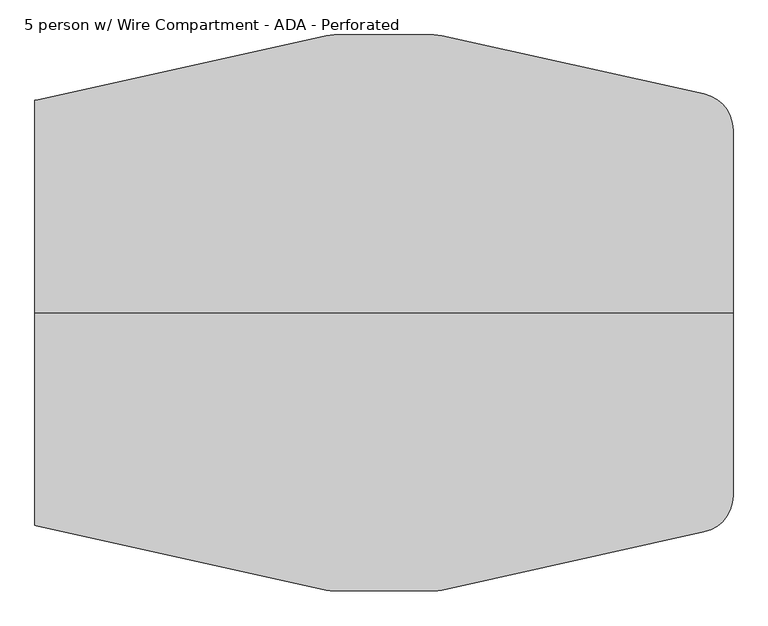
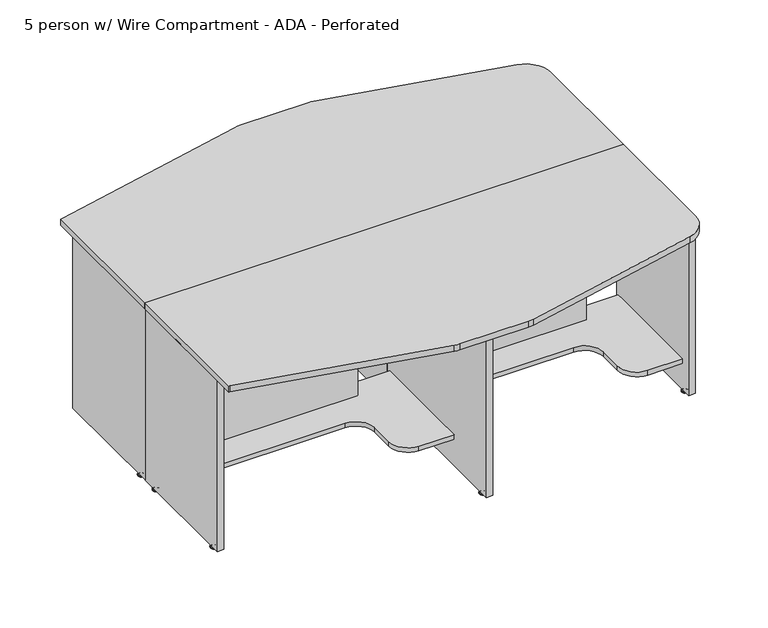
"""IFC4 building model written with IfcOpenShell, lengths in millimetres: furniture geometry, Nova Solutions - Collaboration Table - Boat_4-6 person : 5 person w/ Wire Compartment - ADA - Perforated."""

from ifc_helpers import new_model, si_unit, point, frame, frame_2d, origin, place, context, project, spatial, polyline, circle_curve, ellipse_curve, trimmed, segment, composite_curve, outline, extrude, source, transform, mapped, element, save
from ifc_brep_helpers import plane_surface, cylinder_surface, revolved_surface, advanced_brep


def furniture_5_person_w_wire_compartment_ada_perforated_266a7b52(model_context):
    return source(origin(), model_context, "Body", "SolidModel", [
        advanced_brep(
        [(-971.6776506, 50.4140625, 11.1125), (-958.3223494, 50.4140625, 11.1125), (-965.0, 50.4140625, 11.1125), (-971.6776506, 50.4140625, 9.525), (-958.3223494, 50.4140625, 9.525), (-976.8855135, 50.4140625, 4.7748687), (-953.1144865, 50.4140625, 4.7748687), (-977.7466506, 50.4140625, 3.989419), (-952.2533494, 50.4140625, 3.989419), (-977.7466506, 50.4140625, 3.175), (-952.2533494, 50.4140625, 3.175), (-976.8959119, 50.4140625, 0.0), (-953.1040881, 50.4140625, 0.0), (-965.0, 50.4140625, 0.0)],
        [
            (0, 1, circle_curve(frame((-965.0, 50.4140625, 11.1125), z_axis=(0.0, 0.0, 1.0), x_axis=(1.0, 0.0, 0.0)), 6.6776506)),
            (1, 2),
            (2, 0),
            (1, 0, circle_curve(frame((-965.0, 50.4140625, 11.1125), z_axis=(0.0, 0.0, 1.0), x_axis=(1.0, 0.0, 0.0)), 6.6776506)),
            (3, 4, circle_curve(frame((-965.0, 50.4140625, 9.525), z_axis=(0.0, 0.0, 1.0), x_axis=(1.0, 0.0, 0.0)), 6.6776506)),
            (4, 1),
            (0, 3),
            (4, 3, circle_curve(frame((-965.0, 50.4140625, 9.525), z_axis=(0.0, 0.0, 1.0), x_axis=(1.0, 0.0, 0.0)), 6.6776506)),
            (5, 6, circle_curve(frame((-965.0, 50.4140625, 4.7748687), z_axis=(0.0, 0.0, 1.0), x_axis=(1.0, 0.0, 0.0)), 11.8855135)),
            (6, 4, circle_curve(frame((-952.0679373, 50.4140625, 11.1521822), z_axis=(0.0, 1.0, 0.0), x_axis=(-1.0, 0.0, 0.0)), 6.462615)),
            (3, 5, circle_curve(frame((-977.9320627, 50.4140625, 11.1521822), z_axis=(0.0, 1.0, 0.0), x_axis=(1.0, 0.0, 0.0)), 6.462615)),
            (6, 5, circle_curve(frame((-965.0, 50.4140625, 4.7748687), z_axis=(0.0, 0.0, 1.0), x_axis=(1.0, 0.0, 0.0)), 11.8855135)),
            (7, 8, circle_curve(frame((-965.0, 50.4140625, 3.989419), z_axis=(0.0, 0.0, 1.0), x_axis=(1.0, 0.0, 0.0)), 12.7466506)),
            (8, 6, circle_curve(frame((-953.2875368, 50.4140625, 3.7203591), z_axis=(0.0, -1.0, 0.0), x_axis=(-1.0, 0.0, 0.0)), 1.0686145)),
            (5, 7, circle_curve(frame((-976.7124632, 50.4140625, 3.7203591), z_axis=(0.0, -1.0, 0.0), x_axis=(1.0, 0.0, 0.0)), 1.0686145)),
            (8, 7, circle_curve(frame((-965.0, 50.4140625, 3.989419), z_axis=(0.0, 0.0, 1.0), x_axis=(1.0, 0.0, 0.0)), 12.7466506)),
            (9, 10, circle_curve(frame((-965.0, 50.4140625, 3.175), z_axis=(0.0, 0.0, 1.0), x_axis=(1.0, 0.0, 0.0)), 12.7466506)),
            (10, 8),
            (7, 9),
            (10, 9, circle_curve(frame((-965.0, 50.4140625, 3.175), z_axis=(0.0, 0.0, 1.0), x_axis=(1.0, 0.0, 0.0)), 12.7466506)),
            (11, 12, circle_curve(frame((-965.0, 50.4140625, 0.0), z_axis=(0.0, 0.0, 1.0), x_axis=(1.0, 0.0, 0.0)), 11.8959119)),
            (12, 10),
            (9, 11),
            (12, 11, circle_curve(frame((-965.0, 50.4140625, 0.0), z_axis=(0.0, 0.0, 1.0), x_axis=(1.0, 0.0, 0.0)), 11.8959119)),
            (13, 12),
            (11, 13),
        ],
        [
            plane_surface(frame((-965.0, 50.4140625, 11.1125), z_axis=(0.0, 0.0, 1.0), x_axis=(1.0, 0.0, 0.0))),
            cylinder_surface(frame((-965.0, 50.4140625, 43.2095994), z_axis=(0.0, 0.0, -1.0), x_axis=(1.0, 0.0, 0.0)), 6.6776506),
            revolved_surface(trimmed(ellipse_curve(frame((-952.0679373, 50.4140625, 11.1521822), z_axis=(0.0, -1.0, 0.0), x_axis=(-1.0, 0.0, 0.0)), 6.462615, 6.462615), [point((-958.3223494, 50.4140625, 9.525))], [point((-953.1144865, 50.4140625, 4.7748687))], True, "CARTESIAN"), (-965.0, 50.4140625, 43.2095994), (0.0, 0.0, -1.0)),
            revolved_surface(trimmed(ellipse_curve(frame((-953.2875368, 50.4140625, 3.7203591), z_axis=(0.0, 1.0, 0.0), x_axis=(-1.0, 0.0, 0.0)), 1.0686145, 1.0686145), [point((-953.1144865, 50.4140625, 4.7748687))], [point((-952.2533494, 50.4140625, 3.989419))], True, "CARTESIAN"), (-965.0, 50.4140625, 43.2095994), (0.0, 0.0, -1.0)),
            cylinder_surface(frame((-965.0, 50.4140625, 43.2095994), z_axis=(0.0, 0.0, -1.0), x_axis=(1.0, 0.0, 0.0)), 12.7466506),
            revolved_surface(polyline([(-952.2533494, 50.4140625, 3.175), (-953.1040881, 50.4140625, 0.0)]), (-965.0, 50.4140625, 43.2095994), (0.0, 0.0, -1.0)),
            plane_surface(frame((-965.0, 50.4140625, 0.0), z_axis=(0.0, 0.0, -1.0), x_axis=(1.0, 0.0, 0.0))),
        ],
        [
            (0, [[1, 2, 3]]),
            (0, [[4, -3, -2]]),
            (1, [[5, 6, -1, 7]]),
            (1, [[8, -7, -4, -6]]),
            (2, [[9, 10, -5, 11]]),
            (2, [[12, -11, -8, -10]]),
            (3, [[13, 14, -9, 15]]),
            (3, [[16, -15, -12, -14]]),
            (4, [[17, 18, -13, 19]]),
            (4, [[20, -19, -16, -18]]),
            (5, [[21, 22, -17, 23]]),
            (5, [[24, -23, -20, -22]]),
            (6, [[25, -21, 26]]),
            (6, [[-26, -24, -25]]),
        ],
    ),
        extrude(outline(polyline([(-977.85, 1.4), (-977.85, 498.0), (-952.15, 498.0), (-952.15, 1.4), (-977.85, 1.4)])), frame((0.0, 0.0, 15.6), z_axis=(0.0, 0.0, 1.0), x_axis=(1.0, 0.0, 0.0)), (0.0, 0.0, 1.0), 720.7),
        advanced_brep(
        [(6.6776506, 631.3859375, 11.1125), (0.0, 631.3859375, 11.1125), (-6.6776506, 631.3859375, 11.1125), (6.6776506, 631.3859375, 9.525), (-6.6776506, 631.3859375, 9.525), (11.8855135, 631.3859375, 4.7748687), (-11.8855135, 631.3859375, 4.7748687), (12.7466506, 631.3859375, 3.989419), (-12.7466506, 631.3859375, 3.989419), (12.7466506, 631.3859375, 3.175), (-12.7466506, 631.3859375, 3.175), (11.8959119, 631.3859375, 0.0), (-11.8959119, 631.3859375, 0.0), (0.0, 631.3859375, 0.0)],
        [
            (0, 1),
            (1, 2),
            (2, 0, circle_curve(frame((0.0, 631.3859375, 11.1125), z_axis=(0.0, 0.0, 1.0), x_axis=(-1.0, 0.0, 0.0)), 6.6776506)),
            (0, 2, circle_curve(frame((0.0, 631.3859375, 11.1125), z_axis=(0.0, 0.0, 1.0), x_axis=(-1.0, 0.0, 0.0)), 6.6776506)),
            (3, 0),
            (2, 4),
            (4, 3, circle_curve(frame((0.0, 631.3859375, 9.525), z_axis=(0.0, 0.0, 1.0), x_axis=(-1.0, 0.0, 0.0)), 6.6776506)),
            (3, 4, circle_curve(frame((0.0, 631.3859375, 9.525), z_axis=(0.0, 0.0, 1.0), x_axis=(-1.0, 0.0, 0.0)), 6.6776506)),
            (5, 3, circle_curve(frame((12.9320627, 631.3859375, 11.1521822), z_axis=(0.0, 1.0, 0.0), x_axis=(-1.0, 0.0, 0.0)), 6.462615)),
            (4, 6, circle_curve(frame((-12.9320627, 631.3859375, 11.1521822), z_axis=(0.0, 1.0, 0.0), x_axis=(1.0, 0.0, 0.0)), 6.462615)),
            (6, 5, circle_curve(frame((0.0, 631.3859375, 4.7748687), z_axis=(0.0, 0.0, 1.0), x_axis=(-1.0, 0.0, 0.0)), 11.8855135)),
            (5, 6, circle_curve(frame((0.0, 631.3859375, 4.7748687), z_axis=(0.0, 0.0, 1.0), x_axis=(-1.0, 0.0, 0.0)), 11.8855135)),
            (7, 5, circle_curve(frame((11.7124632, 631.3859375, 3.7203591), z_axis=(0.0, -1.0, 0.0), x_axis=(-1.0, 0.0, 0.0)), 1.0686145)),
            (6, 8, circle_curve(frame((-11.7124632, 631.3859375, 3.7203591), z_axis=(0.0, -1.0, 0.0), x_axis=(1.0, 0.0, 0.0)), 1.0686145)),
            (8, 7, circle_curve(frame((0.0, 631.3859375, 3.989419), z_axis=(0.0, 0.0, 1.0), x_axis=(-1.0, 0.0, 0.0)), 12.7466506)),
            (7, 8, circle_curve(frame((0.0, 631.3859375, 3.989419), z_axis=(0.0, 0.0, 1.0), x_axis=(-1.0, 0.0, 0.0)), 12.7466506)),
            (9, 7),
            (8, 10),
            (10, 9, circle_curve(frame((0.0, 631.3859375, 3.175), z_axis=(0.0, 0.0, 1.0), x_axis=(-1.0, 0.0, 0.0)), 12.7466506)),
            (9, 10, circle_curve(frame((0.0, 631.3859375, 3.175), z_axis=(0.0, 0.0, 1.0), x_axis=(-1.0, 0.0, 0.0)), 12.7466506)),
            (11, 9),
            (10, 12),
            (12, 11, circle_curve(frame((0.0, 631.3859375, 0.0), z_axis=(0.0, 0.0, 1.0), x_axis=(-1.0, 0.0, 0.0)), 11.8959119)),
            (11, 12, circle_curve(frame((0.0, 631.3859375, 0.0), z_axis=(0.0, 0.0, 1.0), x_axis=(-1.0, 0.0, 0.0)), 11.8959119)),
            (13, 11),
            (12, 13),
        ],
        [
            plane_surface(frame((0.0, 631.3859375, 11.1125), z_axis=(0.0, 0.0, 1.0), x_axis=(-1.0, 0.0, 0.0))),
            cylinder_surface(frame((0.0, 631.3859375, 43.2095994), z_axis=(0.0, 0.0, -1.0), x_axis=(-1.0, 0.0, 0.0)), 6.6776506),
            revolved_surface(trimmed(ellipse_curve(frame((-12.9320627, 631.3859375, 11.1521822), z_axis=(0.0, 1.0, 0.0), x_axis=(1.0, 0.0, 0.0)), 6.462615, 6.462615), [point((-6.6776506, 631.3859375, 9.525))], [point((-11.8855135, 631.3859375, 4.7748687))], True, "CARTESIAN"), (0.0, 631.3859375, 43.2095994), (0.0, 0.0, -1.0)),
            revolved_surface(trimmed(ellipse_curve(frame((-11.7124632, 631.3859375, 3.7203591), z_axis=(0.0, -1.0, 0.0), x_axis=(1.0, 0.0, 0.0)), 1.0686145, 1.0686145), [point((-11.8855135, 631.3859375, 4.7748687))], [point((-12.7466506, 631.3859375, 3.989419))], True, "CARTESIAN"), (0.0, 631.3859375, 43.2095994), (0.0, 0.0, -1.0)),
            cylinder_surface(frame((0.0, 631.3859375, 43.2095994), z_axis=(0.0, 0.0, -1.0), x_axis=(-1.0, 0.0, 0.0)), 12.7466506),
            revolved_surface(polyline([(-12.7466506, 631.3859375, 3.175), (-11.8959119, 631.3859375, 0.0)]), (0.0, 631.3859375, 43.2095994), (0.0, 0.0, -1.0)),
            plane_surface(frame((0.0, 631.3859375, 0.0), z_axis=(0.0, 0.0, -1.0), x_axis=(-1.0, 0.0, 0.0))),
        ],
        [
            (0, [[1, 2, 3]]),
            (0, [[-2, -1, 4]]),
            (1, [[5, -3, 6, 7]]),
            (1, [[-6, -4, -5, 8]]),
            (2, [[9, -7, 10, 11]]),
            (2, [[-10, -8, -9, 12]]),
            (3, [[13, -11, 14, 15]]),
            (3, [[-14, -12, -13, 16]]),
            (4, [[17, -15, 18, 19]]),
            (4, [[-18, -16, -17, 20]]),
            (5, [[21, -19, 22, 23]]),
            (5, [[-22, -20, -21, 24]]),
            (6, [[25, -23, 26]]),
            (6, [[-26, -24, -25]]),
        ],
    ),
        advanced_brep(
        [(6.6776506, 50.4140625, 11.1125), (0.0, 50.4140625, 11.1125), (-6.6776506, 50.4140625, 11.1125), (6.6776506, 50.4140625, 9.525), (-6.6776506, 50.4140625, 9.525), (11.8855135, 50.4140625, 4.7748687), (-11.8855135, 50.4140625, 4.7748687), (12.7466506, 50.4140625, 3.989419), (-12.7466506, 50.4140625, 3.989419), (12.7466506, 50.4140625, 3.175), (-12.7466506, 50.4140625, 3.175), (11.8959119, 50.4140625, 0.0), (-11.8959119, 50.4140625, 0.0), (0.0, 50.4140625, 0.0)],
        [
            (0, 1),
            (1, 2),
            (2, 0, circle_curve(frame((0.0, 50.4140625, 11.1125), z_axis=(0.0, 0.0, 1.0), x_axis=(-1.0, 0.0, 0.0)), 6.6776506)),
            (0, 2, circle_curve(frame((0.0, 50.4140625, 11.1125), z_axis=(0.0, 0.0, 1.0), x_axis=(-1.0, 0.0, 0.0)), 6.6776506)),
            (3, 0),
            (2, 4),
            (4, 3, circle_curve(frame((0.0, 50.4140625, 9.525), z_axis=(0.0, 0.0, 1.0), x_axis=(-1.0, 0.0, 0.0)), 6.6776506)),
            (3, 4, circle_curve(frame((0.0, 50.4140625, 9.525), z_axis=(0.0, 0.0, 1.0), x_axis=(-1.0, 0.0, 0.0)), 6.6776506)),
            (5, 3, circle_curve(frame((12.9320627, 50.4140625, 11.1521822), z_axis=(0.0, 1.0, 0.0), x_axis=(-1.0, 0.0, 0.0)), 6.462615)),
            (4, 6, circle_curve(frame((-12.9320627, 50.4140625, 11.1521822), z_axis=(0.0, 1.0, 0.0), x_axis=(1.0, 0.0, 0.0)), 6.462615)),
            (6, 5, circle_curve(frame((0.0, 50.4140625, 4.7748687), z_axis=(0.0, 0.0, 1.0), x_axis=(-1.0, 0.0, 0.0)), 11.8855135)),
            (5, 6, circle_curve(frame((0.0, 50.4140625, 4.7748687), z_axis=(0.0, 0.0, 1.0), x_axis=(-1.0, 0.0, 0.0)), 11.8855135)),
            (7, 5, circle_curve(frame((11.7124632, 50.4140625, 3.7203591), z_axis=(0.0, -1.0, 0.0), x_axis=(-1.0, 0.0, 0.0)), 1.0686145)),
            (6, 8, circle_curve(frame((-11.7124632, 50.4140625, 3.7203591), z_axis=(0.0, -1.0, 0.0), x_axis=(1.0, 0.0, 0.0)), 1.0686145)),
            (8, 7, circle_curve(frame((0.0, 50.4140625, 3.989419), z_axis=(0.0, 0.0, 1.0), x_axis=(-1.0, 0.0, 0.0)), 12.7466506)),
            (7, 8, circle_curve(frame((0.0, 50.4140625, 3.989419), z_axis=(0.0, 0.0, 1.0), x_axis=(-1.0, 0.0, 0.0)), 12.7466506)),
            (9, 7),
            (8, 10),
            (10, 9, circle_curve(frame((0.0, 50.4140625, 3.175), z_axis=(0.0, 0.0, 1.0), x_axis=(-1.0, 0.0, 0.0)), 12.7466506)),
            (9, 10, circle_curve(frame((0.0, 50.4140625, 3.175), z_axis=(0.0, 0.0, 1.0), x_axis=(-1.0, 0.0, 0.0)), 12.7466506)),
            (11, 9),
            (10, 12),
            (12, 11, circle_curve(frame((0.0, 50.4140625, 0.0), z_axis=(0.0, 0.0, 1.0), x_axis=(-1.0, 0.0, 0.0)), 11.8959119)),
            (11, 12, circle_curve(frame((0.0, 50.4140625, 0.0), z_axis=(0.0, 0.0, 1.0), x_axis=(-1.0, 0.0, 0.0)), 11.8959119)),
            (13, 11),
            (12, 13),
        ],
        [
            plane_surface(frame((0.0, 50.4140625, 11.1125), z_axis=(0.0, 0.0, 1.0), x_axis=(-1.0, 0.0, 0.0))),
            cylinder_surface(frame((0.0, 50.4140625, 43.2095994), z_axis=(0.0, 0.0, -1.0), x_axis=(-1.0, 0.0, 0.0)), 6.6776506),
            revolved_surface(trimmed(ellipse_curve(frame((-12.9320627, 50.4140625, 11.1521822), z_axis=(0.0, 1.0, 0.0), x_axis=(1.0, 0.0, 0.0)), 6.462615, 6.462615), [point((-6.6776506, 50.4140625, 9.525))], [point((-11.8855135, 50.4140625, 4.7748687))], True, "CARTESIAN"), (0.0, 50.4140625, 43.2095994), (0.0, 0.0, -1.0)),
            revolved_surface(trimmed(ellipse_curve(frame((-11.7124632, 50.4140625, 3.7203591), z_axis=(0.0, -1.0, 0.0), x_axis=(1.0, 0.0, 0.0)), 1.0686145, 1.0686145), [point((-11.8855135, 50.4140625, 4.7748687))], [point((-12.7466506, 50.4140625, 3.989419))], True, "CARTESIAN"), (0.0, 50.4140625, 43.2095994), (0.0, 0.0, -1.0)),
            cylinder_surface(frame((0.0, 50.4140625, 43.2095994), z_axis=(0.0, 0.0, -1.0), x_axis=(-1.0, 0.0, 0.0)), 12.7466506),
            revolved_surface(polyline([(-12.7466506, 50.4140625, 3.175), (-11.8959119, 50.4140625, 0.0)]), (0.0, 50.4140625, 43.2095994), (0.0, 0.0, -1.0)),
            plane_surface(frame((0.0, 50.4140625, 0.0), z_axis=(0.0, 0.0, -1.0), x_axis=(-1.0, 0.0, 0.0))),
        ],
        [
            (0, [[1, 2, 3]]),
            (0, [[-2, -1, 4]]),
            (1, [[5, -3, 6, 7]]),
            (1, [[-6, -4, -5, 8]]),
            (2, [[9, -7, 10, 11]]),
            (2, [[-10, -8, -9, 12]]),
            (3, [[13, -11, 14, 15]]),
            (3, [[-14, -12, -13, 16]]),
            (4, [[17, -15, 18, 19]]),
            (4, [[-18, -16, -17, 20]]),
            (5, [[21, -19, 22, 23]]),
            (5, [[-22, -20, -21, 24]]),
            (6, [[25, -23, 26]]),
            (6, [[-26, -24, -25]]),
        ],
    ),
        extrude(outline(polyline([(12.85, 1.4), (-12.85, 1.4), (-12.85, 680.4), (12.85, 680.4), (12.85, 1.4)])), frame((0.0, 0.0, 15.6), z_axis=(0.0, 0.0, 1.0), x_axis=(1.0, 0.0, 0.0)), (0.0, 0.0, 1.0), 720.7),
        extrude(outline(composite_curve([segment(trimmed(circle_curve(frame_2d((-163.1227993, 656.4)), 101.6), [point((-185.1130641, 755.5916743))], [point((-163.1227993, 758.0))], False, "CARTESIAN"), True, "CONTINUOUS"), segment(polyline([(-163.1227993, 758.0), (108.0350272, 758.0)]), True, "CONTINUOUS"), segment(trimmed(circle_curve(frame_2d((108.0350272, 656.4)), 101.6), [point((108.0350272, 758.0))], [point((130.025292, 755.5916743))], False, "CARTESIAN"), True, "CONTINUOUS"), segment(polyline([(130.025292, 755.5916743), (844.6402648, 597.165349)]), True, "CONTINUOUS"), segment(trimmed(circle_curve(frame_2d((822.65, 497.9736747)), 101.6), [point((844.6402648, 597.165349))], [point((924.25, 497.9736747))], False, "CARTESIAN"), True, "CONTINUOUS"), segment(polyline([(924.25, 497.9736747), (924.25, 0.0), (-979.2498676, 0.0), (-979.2498676, 579.4738112)]), True, "CONTINUOUS"), segment(trimmed(circle_curve(frame_2d((-953.85, 481.1)), 101.6), [point((-979.2498676, 579.4738112))], [point((-975.8402648, 580.2916743))], False, "CARTESIAN"), True, "CONTINUOUS"), segment(polyline([(-975.8402648, 580.2916743), (-185.1130641, 755.5916743)]), True, "CONTINUOUS")], self_intersect=False)), frame((0.0, 0.0, 736.3), z_axis=(0.0, 0.0, 1.0), x_axis=(1.0, 0.0, 0.0)), (0.0, 0.0, 1.0), 25.7),
        extrude(outline(polyline([(145.5, 12.85), (145.5, 726.15), (507.4, 726.15), (507.4, 897.15), (736.3, 897.15), (736.3, 12.85), (145.5, 12.85)])), frame((0.0, -88.6, 0.0), z_axis=(0.0, 1.0, 0.0), x_axis=(0.0, 0.0, 1.0)), (0.0, 0.0, 1.0), 19.2),
        extrude(outline(composite_curve([segment(polyline([(897.15, -457.2625), (757.35, -457.2625)]), True, "CONTINUOUS"), segment(trimmed(circle_curve(frame_2d((757.35, -381.0625)), 76.2), [point((757.35, -457.2625))], [point((681.15, -381.0625))], False, "CARTESIAN"), True, "CONTINUOUS"), segment(polyline([(681.15, -381.0625), (681.15, -286.6)]), True, "CONTINUOUS"), segment(trimmed(circle_curve(frame_2d((604.95, -286.6)), 76.2), [point((681.15, -286.6))], [point((604.95, -210.4))], True, "CARTESIAN"), True, "CONTINUOUS"), segment(polyline([(604.95, -210.4), (12.85, -210.4), (12.85, -14.1), (897.15, -14.1), (897.15, -457.2625)]), True, "CONTINUOUS")], self_intersect=False)), frame((0.0, 0.0, 126.3), z_axis=(0.0, 0.0, 1.0), x_axis=(1.0, 0.0, 0.0)), (0.0, 0.0, 1.0), 19.2),
        advanced_brep(
        [(916.6776506, -448.9859375, 11.1125), (903.3223494, -448.9859375, 11.1125), (910.0, -448.9859375, 11.1125), (916.6776506, -448.9859375, 9.525), (903.3223494, -448.9859375, 9.525), (921.8855135, -448.9859375, 4.7748687), (898.1144865, -448.9859375, 4.7748687), (922.7466506, -448.9859375, 3.989419), (897.2533494, -448.9859375, 3.989419), (922.7466506, -448.9859375, 3.175), (897.2533494, -448.9859375, 3.175), (921.8959119, -448.9859375, 0.0), (898.1040881, -448.9859375, 0.0), (910.0, -448.9859375, 0.0)],
        [
            (0, 1, circle_curve(frame((910.0, -448.9859375, 11.1125), z_axis=(0.0, 0.0, 1.0), x_axis=(-1.0, 0.0, 0.0)), 6.6776506)),
            (1, 2),
            (2, 0),
            (1, 0, circle_curve(frame((910.0, -448.9859375, 11.1125), z_axis=(0.0, 0.0, 1.0), x_axis=(-1.0, 0.0, 0.0)), 6.6776506)),
            (3, 4, circle_curve(frame((910.0, -448.9859375, 9.525), z_axis=(0.0, 0.0, 1.0), x_axis=(-1.0, 0.0, 0.0)), 6.6776506)),
            (4, 1),
            (0, 3),
            (4, 3, circle_curve(frame((910.0, -448.9859375, 9.525), z_axis=(0.0, 0.0, 1.0), x_axis=(-1.0, 0.0, 0.0)), 6.6776506)),
            (5, 6, circle_curve(frame((910.0, -448.9859375, 4.7748687), z_axis=(0.0, 0.0, 1.0), x_axis=(-1.0, 0.0, 0.0)), 11.8855135)),
            (6, 4, circle_curve(frame((897.0679373, -448.9859375, 11.1521822), z_axis=(0.0, -1.0, 0.0), x_axis=(1.0, 0.0, 0.0)), 6.462615)),
            (3, 5, circle_curve(frame((922.9320627, -448.9859375, 11.1521822), z_axis=(0.0, -1.0, 0.0), x_axis=(-1.0, 0.0, 0.0)), 6.462615)),
            (6, 5, circle_curve(frame((910.0, -448.9859375, 4.7748687), z_axis=(0.0, 0.0, 1.0), x_axis=(-1.0, 0.0, 0.0)), 11.8855135)),
            (7, 8, circle_curve(frame((910.0, -448.9859375, 3.989419), z_axis=(0.0, 0.0, 1.0), x_axis=(-1.0, 0.0, 0.0)), 12.7466506)),
            (8, 6, circle_curve(frame((898.2875368, -448.9859375, 3.7203591), z_axis=(0.0, 1.0, 0.0), x_axis=(1.0, 0.0, 0.0)), 1.0686145)),
            (5, 7, circle_curve(frame((921.7124632, -448.9859375, 3.7203591), z_axis=(0.0, 1.0, 0.0), x_axis=(-1.0, 0.0, 0.0)), 1.0686145)),
            (8, 7, circle_curve(frame((910.0, -448.9859375, 3.989419), z_axis=(0.0, 0.0, 1.0), x_axis=(-1.0, 0.0, 0.0)), 12.7466506)),
            (9, 10, circle_curve(frame((910.0, -448.9859375, 3.175), z_axis=(0.0, 0.0, 1.0), x_axis=(-1.0, 0.0, 0.0)), 12.7466506)),
            (10, 8),
            (7, 9),
            (10, 9, circle_curve(frame((910.0, -448.9859375, 3.175), z_axis=(0.0, 0.0, 1.0), x_axis=(-1.0, 0.0, 0.0)), 12.7466506)),
            (11, 12, circle_curve(frame((910.0, -448.9859375, 0.0), z_axis=(0.0, 0.0, 1.0), x_axis=(-1.0, 0.0, 0.0)), 11.8959119)),
            (12, 10),
            (9, 11),
            (12, 11, circle_curve(frame((910.0, -448.9859375, 0.0), z_axis=(0.0, 0.0, 1.0), x_axis=(-1.0, 0.0, 0.0)), 11.8959119)),
            (13, 12),
            (11, 13),
        ],
        [
            plane_surface(frame((910.0, -448.9859375, 11.1125), z_axis=(0.0, 0.0, 1.0), x_axis=(-1.0, 0.0, 0.0))),
            cylinder_surface(frame((910.0, -448.9859375, 43.2095994), z_axis=(0.0, 0.0, -1.0), x_axis=(-1.0, 0.0, 0.0)), 6.6776506),
            revolved_surface(trimmed(ellipse_curve(frame((897.0679373, -448.9859375, 11.1521822), z_axis=(0.0, 1.0, 0.0), x_axis=(1.0, 0.0, 0.0)), 6.462615, 6.462615), [point((903.3223494, -448.9859375, 9.525))], [point((898.1144865, -448.9859375, 4.7748687))], True, "CARTESIAN"), (910.0, -448.9859375, 43.2095994), (0.0, 0.0, -1.0)),
            revolved_surface(trimmed(ellipse_curve(frame((898.2875368, -448.9859375, 3.7203591), z_axis=(0.0, -1.0, 0.0), x_axis=(1.0, 0.0, 0.0)), 1.0686145, 1.0686145), [point((898.1144865, -448.9859375, 4.7748687))], [point((897.2533494, -448.9859375, 3.989419))], True, "CARTESIAN"), (910.0, -448.9859375, 43.2095994), (0.0, 0.0, -1.0)),
            cylinder_surface(frame((910.0, -448.9859375, 43.2095994), z_axis=(0.0, 0.0, -1.0), x_axis=(-1.0, 0.0, 0.0)), 12.7466506),
            revolved_surface(polyline([(897.2533494, -448.9859375, 3.175), (898.1040881, -448.9859375, 0.0)]), (910.0, -448.9859375, 43.2095994), (0.0, 0.0, -1.0)),
            plane_surface(frame((910.0, -448.9859375, 0.0), z_axis=(0.0, 0.0, -1.0), x_axis=(-1.0, 0.0, 0.0))),
        ],
        [
            (0, [[1, 2, 3]]),
            (0, [[4, -3, -2]]),
            (1, [[5, 6, -1, 7]]),
            (1, [[8, -7, -4, -6]]),
            (2, [[9, 10, -5, 11]]),
            (2, [[12, -11, -8, -10]]),
            (3, [[13, 14, -9, 15]]),
            (3, [[16, -15, -12, -14]]),
            (4, [[17, 18, -13, 19]]),
            (4, [[20, -19, -16, -18]]),
            (5, [[21, 22, -17, 23]]),
            (5, [[24, -23, -20, -22]]),
            (6, [[25, -21, 26]]),
            (6, [[-26, -24, -25]]),
        ],
    ),
        advanced_brep(
        [(916.6776506, -50.4140625, 11.1125), (903.3223494, -50.4140625, 11.1125), (910.0, -50.4140625, 11.1125), (916.6776506, -50.4140625, 9.525), (903.3223494, -50.4140625, 9.525), (921.8855135, -50.4140625, 4.7748687), (898.1144865, -50.4140625, 4.7748687), (922.7466506, -50.4140625, 3.989419), (897.2533494, -50.4140625, 3.989419), (922.7466506, -50.4140625, 3.175), (897.2533494, -50.4140625, 3.175), (921.8959119, -50.4140625, 0.0), (898.1040881, -50.4140625, 0.0), (910.0, -50.4140625, 0.0)],
        [
            (0, 1, circle_curve(frame((910.0, -50.4140625, 11.1125), z_axis=(0.0, 0.0, 1.0), x_axis=(-1.0, 0.0, 0.0)), 6.6776506)),
            (1, 2),
            (2, 0),
            (1, 0, circle_curve(frame((910.0, -50.4140625, 11.1125), z_axis=(0.0, 0.0, 1.0), x_axis=(-1.0, 0.0, 0.0)), 6.6776506)),
            (3, 4, circle_curve(frame((910.0, -50.4140625, 9.525), z_axis=(0.0, 0.0, 1.0), x_axis=(-1.0, 0.0, 0.0)), 6.6776506)),
            (4, 1),
            (0, 3),
            (4, 3, circle_curve(frame((910.0, -50.4140625, 9.525), z_axis=(0.0, 0.0, 1.0), x_axis=(-1.0, 0.0, 0.0)), 6.6776506)),
            (5, 6, circle_curve(frame((910.0, -50.4140625, 4.7748687), z_axis=(0.0, 0.0, 1.0), x_axis=(-1.0, 0.0, 0.0)), 11.8855135)),
            (6, 4, circle_curve(frame((897.0679373, -50.4140625, 11.1521822), z_axis=(0.0, -1.0, 0.0), x_axis=(1.0, 0.0, 0.0)), 6.462615)),
            (3, 5, circle_curve(frame((922.9320627, -50.4140625, 11.1521822), z_axis=(0.0, -1.0, 0.0), x_axis=(-1.0, 0.0, 0.0)), 6.462615)),
            (6, 5, circle_curve(frame((910.0, -50.4140625, 4.7748687), z_axis=(0.0, 0.0, 1.0), x_axis=(-1.0, 0.0, 0.0)), 11.8855135)),
            (7, 8, circle_curve(frame((910.0, -50.4140625, 3.989419), z_axis=(0.0, 0.0, 1.0), x_axis=(-1.0, 0.0, 0.0)), 12.7466506)),
            (8, 6, circle_curve(frame((898.2875368, -50.4140625, 3.7203591), z_axis=(0.0, 1.0, 0.0), x_axis=(1.0, 0.0, 0.0)), 1.0686145)),
            (5, 7, circle_curve(frame((921.7124632, -50.4140625, 3.7203591), z_axis=(0.0, 1.0, 0.0), x_axis=(-1.0, 0.0, 0.0)), 1.0686145)),
            (8, 7, circle_curve(frame((910.0, -50.4140625, 3.989419), z_axis=(0.0, 0.0, 1.0), x_axis=(-1.0, 0.0, 0.0)), 12.7466506)),
            (9, 10, circle_curve(frame((910.0, -50.4140625, 3.175), z_axis=(0.0, 0.0, 1.0), x_axis=(-1.0, 0.0, 0.0)), 12.7466506)),
            (10, 8),
            (7, 9),
            (10, 9, circle_curve(frame((910.0, -50.4140625, 3.175), z_axis=(0.0, 0.0, 1.0), x_axis=(-1.0, 0.0, 0.0)), 12.7466506)),
            (11, 12, circle_curve(frame((910.0, -50.4140625, 0.0), z_axis=(0.0, 0.0, 1.0), x_axis=(-1.0, 0.0, 0.0)), 11.8959119)),
            (12, 10),
            (9, 11),
            (12, 11, circle_curve(frame((910.0, -50.4140625, 0.0), z_axis=(0.0, 0.0, 1.0), x_axis=(-1.0, 0.0, 0.0)), 11.8959119)),
            (13, 12),
            (11, 13),
        ],
        [
            plane_surface(frame((910.0, -50.4140625, 11.1125), z_axis=(0.0, 0.0, 1.0), x_axis=(-1.0, 0.0, 0.0))),
            cylinder_surface(frame((910.0, -50.4140625, 43.2095994), z_axis=(0.0, 0.0, -1.0), x_axis=(-1.0, 0.0, 0.0)), 6.6776506),
            revolved_surface(trimmed(ellipse_curve(frame((897.0679373, -50.4140625, 11.1521822), z_axis=(0.0, 1.0, 0.0), x_axis=(1.0, 0.0, 0.0)), 6.462615, 6.462615), [point((903.3223494, -50.4140625, 9.525))], [point((898.1144865, -50.4140625, 4.7748687))], True, "CARTESIAN"), (910.0, -50.4140625, 43.2095994), (0.0, 0.0, -1.0)),
            revolved_surface(trimmed(ellipse_curve(frame((898.2875368, -50.4140625, 3.7203591), z_axis=(0.0, -1.0, 0.0), x_axis=(1.0, 0.0, 0.0)), 1.0686145, 1.0686145), [point((898.1144865, -50.4140625, 4.7748687))], [point((897.2533494, -50.4140625, 3.989419))], True, "CARTESIAN"), (910.0, -50.4140625, 43.2095994), (0.0, 0.0, -1.0)),
            cylinder_surface(frame((910.0, -50.4140625, 43.2095994), z_axis=(0.0, 0.0, -1.0), x_axis=(-1.0, 0.0, 0.0)), 12.7466506),
            revolved_surface(polyline([(897.2533494, -50.4140625, 3.175), (898.1040881, -50.4140625, 0.0)]), (910.0, -50.4140625, 43.2095994), (0.0, 0.0, -1.0)),
            plane_surface(frame((910.0, -50.4140625, 0.0), z_axis=(0.0, 0.0, -1.0), x_axis=(-1.0, 0.0, 0.0))),
        ],
        [
            (0, [[1, 2, 3]]),
            (0, [[4, -3, -2]]),
            (1, [[5, 6, -1, 7]]),
            (1, [[8, -7, -4, -6]]),
            (2, [[9, 10, -5, 11]]),
            (2, [[12, -11, -8, -10]]),
            (3, [[13, 14, -9, 15]]),
            (3, [[16, -15, -12, -14]]),
            (4, [[17, 18, -13, 19]]),
            (4, [[20, -19, -16, -18]]),
            (5, [[21, 22, -17, 23]]),
            (5, [[24, -23, -20, -22]]),
            (6, [[25, -21, 26]]),
            (6, [[-26, -24, -25]]),
        ],
    ),
        extrude(outline(polyline([(922.85, -1.4), (922.85, -498.0), (897.15, -498.0), (897.15, -1.4), (922.85, -1.4)])), frame((0.0, 0.0, 15.6), z_axis=(0.0, 0.0, 1.0), x_axis=(1.0, 0.0, 0.0)), (0.0, 0.0, 1.0), 720.7),
        extrude(outline(polyline([(736.3, -952.15), (145.5, -952.15), (145.5, -183.85), (507.4, -183.85), (507.4, -12.85), (736.3, -12.85), (736.3, -952.15)])), frame((0.0, -88.6, 0.0), z_axis=(0.0, 1.0, 0.0), x_axis=(0.0, 0.0, 1.0)), (0.0, 0.0, 1.0), 19.2),
        extrude(outline(composite_curve([segment(polyline([(-952.15, -14.1), (-12.85, -14.1), (-12.85, -457.2625), (-152.65, -457.2625)]), True, "CONTINUOUS"), segment(trimmed(circle_curve(frame_2d((-152.65, -381.0625)), 76.2), [point((-152.65, -457.2625))], [point((-228.85, -381.0625))], False, "CARTESIAN"), True, "CONTINUOUS"), segment(polyline([(-228.85, -381.0625), (-228.85, -286.6)]), True, "CONTINUOUS"), segment(trimmed(circle_curve(frame_2d((-305.05, -286.6)), 76.2), [point((-228.85, -286.6))], [point((-305.05, -210.4))], True, "CARTESIAN"), True, "CONTINUOUS"), segment(polyline([(-305.05, -210.4), (-952.15, -210.4), (-952.15, -14.1)]), True, "CONTINUOUS")], self_intersect=False)), frame((0.0, 0.0, 126.3), z_axis=(0.0, 0.0, 1.0), x_axis=(1.0, 0.0, 0.0)), (0.0, 0.0, 1.0), 19.2),
        advanced_brep(
        [(-971.6776506, -448.9859375, 11.1125), (-965.0, -448.9859375, 11.1125), (-958.3223494, -448.9859375, 11.1125), (-971.6776506, -448.9859375, 9.525), (-958.3223494, -448.9859375, 9.525), (-976.8855135, -448.9859375, 4.7748687), (-953.1144865, -448.9859375, 4.7748687), (-977.7466506, -448.9859375, 3.989419), (-952.2533494, -448.9859375, 3.989419), (-977.7466506, -448.9859375, 3.175), (-952.2533494, -448.9859375, 3.175), (-976.8959119, -448.9859375, 0.0), (-953.1040881, -448.9859375, 0.0), (-965.0, -448.9859375, 0.0)],
        [
            (0, 1),
            (1, 2),
            (2, 0, circle_curve(frame((-965.0, -448.9859375, 11.1125), z_axis=(0.0, 0.0, 1.0), x_axis=(1.0, 0.0, 0.0)), 6.6776506)),
            (0, 2, circle_curve(frame((-965.0, -448.9859375, 11.1125), z_axis=(0.0, 0.0, 1.0), x_axis=(1.0, 0.0, 0.0)), 6.6776506)),
            (3, 0),
            (2, 4),
            (4, 3, circle_curve(frame((-965.0, -448.9859375, 9.525), z_axis=(0.0, 0.0, 1.0), x_axis=(1.0, 0.0, 0.0)), 6.6776506)),
            (3, 4, circle_curve(frame((-965.0, -448.9859375, 9.525), z_axis=(0.0, 0.0, 1.0), x_axis=(1.0, 0.0, 0.0)), 6.6776506)),
            (5, 3, circle_curve(frame((-977.9320627, -448.9859375, 11.1521822), z_axis=(0.0, -1.0, 0.0), x_axis=(1.0, 0.0, 0.0)), 6.462615)),
            (4, 6, circle_curve(frame((-952.0679373, -448.9859375, 11.1521822), z_axis=(0.0, -1.0, 0.0), x_axis=(-1.0, 0.0, 0.0)), 6.462615)),
            (6, 5, circle_curve(frame((-965.0, -448.9859375, 4.7748687), z_axis=(0.0, 0.0, 1.0), x_axis=(1.0, 0.0, 0.0)), 11.8855135)),
            (5, 6, circle_curve(frame((-965.0, -448.9859375, 4.7748687), z_axis=(0.0, 0.0, 1.0), x_axis=(1.0, 0.0, 0.0)), 11.8855135)),
            (7, 5, circle_curve(frame((-976.7124632, -448.9859375, 3.7203591), z_axis=(0.0, 1.0, 0.0), x_axis=(1.0, 0.0, 0.0)), 1.0686145)),
            (6, 8, circle_curve(frame((-953.2875368, -448.9859375, 3.7203591), z_axis=(0.0, 1.0, 0.0), x_axis=(-1.0, 0.0, 0.0)), 1.0686145)),
            (8, 7, circle_curve(frame((-965.0, -448.9859375, 3.989419), z_axis=(0.0, 0.0, 1.0), x_axis=(1.0, 0.0, 0.0)), 12.7466506)),
            (7, 8, circle_curve(frame((-965.0, -448.9859375, 3.989419), z_axis=(0.0, 0.0, 1.0), x_axis=(1.0, 0.0, 0.0)), 12.7466506)),
            (9, 7),
            (8, 10),
            (10, 9, circle_curve(frame((-965.0, -448.9859375, 3.175), z_axis=(0.0, 0.0, 1.0), x_axis=(1.0, 0.0, 0.0)), 12.7466506)),
            (9, 10, circle_curve(frame((-965.0, -448.9859375, 3.175), z_axis=(0.0, 0.0, 1.0), x_axis=(1.0, 0.0, 0.0)), 12.7466506)),
            (11, 9),
            (10, 12),
            (12, 11, circle_curve(frame((-965.0, -448.9859375, 0.0), z_axis=(0.0, 0.0, 1.0), x_axis=(1.0, 0.0, 0.0)), 11.8959119)),
            (11, 12, circle_curve(frame((-965.0, -448.9859375, 0.0), z_axis=(0.0, 0.0, 1.0), x_axis=(1.0, 0.0, 0.0)), 11.8959119)),
            (13, 11),
            (12, 13),
        ],
        [
            plane_surface(frame((-965.0, -448.9859375, 11.1125), z_axis=(0.0, 0.0, 1.0), x_axis=(1.0, 0.0, 0.0))),
            cylinder_surface(frame((-965.0, -448.9859375, 43.2095994), z_axis=(0.0, 0.0, -1.0), x_axis=(1.0, 0.0, 0.0)), 6.6776506),
            revolved_surface(trimmed(ellipse_curve(frame((-952.0679373, -448.9859375, 11.1521822), z_axis=(0.0, -1.0, 0.0), x_axis=(-1.0, 0.0, 0.0)), 6.462615, 6.462615), [point((-958.3223494, -448.9859375, 9.525))], [point((-953.1144865, -448.9859375, 4.7748687))], True, "CARTESIAN"), (-965.0, -448.9859375, 43.2095994), (0.0, 0.0, -1.0)),
            revolved_surface(trimmed(ellipse_curve(frame((-953.2875368, -448.9859375, 3.7203591), z_axis=(0.0, 1.0, 0.0), x_axis=(-1.0, 0.0, 0.0)), 1.0686145, 1.0686145), [point((-953.1144865, -448.9859375, 4.7748687))], [point((-952.2533494, -448.9859375, 3.989419))], True, "CARTESIAN"), (-965.0, -448.9859375, 43.2095994), (0.0, 0.0, -1.0)),
            cylinder_surface(frame((-965.0, -448.9859375, 43.2095994), z_axis=(0.0, 0.0, -1.0), x_axis=(1.0, 0.0, 0.0)), 12.7466506),
            revolved_surface(polyline([(-952.2533494, -448.9859375, 3.175), (-953.1040881, -448.9859375, 0.0)]), (-965.0, -448.9859375, 43.2095994), (0.0, 0.0, -1.0)),
            plane_surface(frame((-965.0, -448.9859375, 0.0), z_axis=(0.0, 0.0, -1.0), x_axis=(1.0, 0.0, 0.0))),
        ],
        [
            (0, [[1, 2, 3]]),
            (0, [[-2, -1, 4]]),
            (1, [[5, -3, 6, 7]]),
            (1, [[-6, -4, -5, 8]]),
            (2, [[9, -7, 10, 11]]),
            (2, [[-10, -8, -9, 12]]),
            (3, [[13, -11, 14, 15]]),
            (3, [[-14, -12, -13, 16]]),
            (4, [[17, -15, 18, 19]]),
            (4, [[-18, -16, -17, 20]]),
            (5, [[21, -19, 22, 23]]),
            (5, [[-22, -20, -21, 24]]),
            (6, [[25, -23, 26]]),
            (6, [[-26, -24, -25]]),
        ],
    ),
        advanced_brep(
        [(-971.6776506, -50.4140625, 11.1125), (-965.0, -50.4140625, 11.1125), (-958.3223494, -50.4140625, 11.1125), (-971.6776506, -50.4140625, 9.525), (-958.3223494, -50.4140625, 9.525), (-976.8855135, -50.4140625, 4.7748687), (-953.1144865, -50.4140625, 4.7748687), (-977.7466506, -50.4140625, 3.989419), (-952.2533494, -50.4140625, 3.989419), (-977.7466506, -50.4140625, 3.175), (-952.2533494, -50.4140625, 3.175), (-976.8959119, -50.4140625, 0.0), (-953.1040881, -50.4140625, 0.0), (-965.0, -50.4140625, 0.0)],
        [
            (0, 1),
            (1, 2),
            (2, 0, circle_curve(frame((-965.0, -50.4140625, 11.1125), z_axis=(0.0, 0.0, 1.0), x_axis=(1.0, 0.0, 0.0)), 6.6776506)),
            (0, 2, circle_curve(frame((-965.0, -50.4140625, 11.1125), z_axis=(0.0, 0.0, 1.0), x_axis=(1.0, 0.0, 0.0)), 6.6776506)),
            (3, 0),
            (2, 4),
            (4, 3, circle_curve(frame((-965.0, -50.4140625, 9.525), z_axis=(0.0, 0.0, 1.0), x_axis=(1.0, 0.0, 0.0)), 6.6776506)),
            (3, 4, circle_curve(frame((-965.0, -50.4140625, 9.525), z_axis=(0.0, 0.0, 1.0), x_axis=(1.0, 0.0, 0.0)), 6.6776506)),
            (5, 3, circle_curve(frame((-977.9320627, -50.4140625, 11.1521822), z_axis=(0.0, -1.0, 0.0), x_axis=(1.0, 0.0, 0.0)), 6.462615)),
            (4, 6, circle_curve(frame((-952.0679373, -50.4140625, 11.1521822), z_axis=(0.0, -1.0, 0.0), x_axis=(-1.0, 0.0, 0.0)), 6.462615)),
            (6, 5, circle_curve(frame((-965.0, -50.4140625, 4.7748687), z_axis=(0.0, 0.0, 1.0), x_axis=(1.0, 0.0, 0.0)), 11.8855135)),
            (5, 6, circle_curve(frame((-965.0, -50.4140625, 4.7748687), z_axis=(0.0, 0.0, 1.0), x_axis=(1.0, 0.0, 0.0)), 11.8855135)),
            (7, 5, circle_curve(frame((-976.7124632, -50.4140625, 3.7203591), z_axis=(0.0, 1.0, 0.0), x_axis=(1.0, 0.0, 0.0)), 1.0686145)),
            (6, 8, circle_curve(frame((-953.2875368, -50.4140625, 3.7203591), z_axis=(0.0, 1.0, 0.0), x_axis=(-1.0, 0.0, 0.0)), 1.0686145)),
            (8, 7, circle_curve(frame((-965.0, -50.4140625, 3.989419), z_axis=(0.0, 0.0, 1.0), x_axis=(1.0, 0.0, 0.0)), 12.7466506)),
            (7, 8, circle_curve(frame((-965.0, -50.4140625, 3.989419), z_axis=(0.0, 0.0, 1.0), x_axis=(1.0, 0.0, 0.0)), 12.7466506)),
            (9, 7),
            (8, 10),
            (10, 9, circle_curve(frame((-965.0, -50.4140625, 3.175), z_axis=(0.0, 0.0, 1.0), x_axis=(1.0, 0.0, 0.0)), 12.7466506)),
            (9, 10, circle_curve(frame((-965.0, -50.4140625, 3.175), z_axis=(0.0, 0.0, 1.0), x_axis=(1.0, 0.0, 0.0)), 12.7466506)),
            (11, 9),
            (10, 12),
            (12, 11, circle_curve(frame((-965.0, -50.4140625, 0.0), z_axis=(0.0, 0.0, 1.0), x_axis=(1.0, 0.0, 0.0)), 11.8959119)),
            (11, 12, circle_curve(frame((-965.0, -50.4140625, 0.0), z_axis=(0.0, 0.0, 1.0), x_axis=(1.0, 0.0, 0.0)), 11.8959119)),
            (13, 11),
            (12, 13),
        ],
        [
            plane_surface(frame((-965.0, -50.4140625, 11.1125), z_axis=(0.0, 0.0, 1.0), x_axis=(1.0, 0.0, 0.0))),
            cylinder_surface(frame((-965.0, -50.4140625, 43.2095994), z_axis=(0.0, 0.0, -1.0), x_axis=(1.0, 0.0, 0.0)), 6.6776506),
            revolved_surface(trimmed(ellipse_curve(frame((-952.0679373, -50.4140625, 11.1521822), z_axis=(0.0, -1.0, 0.0), x_axis=(-1.0, 0.0, 0.0)), 6.462615, 6.462615), [point((-958.3223494, -50.4140625, 9.525))], [point((-953.1144865, -50.4140625, 4.7748687))], True, "CARTESIAN"), (-965.0, -50.4140625, 43.2095994), (0.0, 0.0, -1.0)),
            revolved_surface(trimmed(ellipse_curve(frame((-953.2875368, -50.4140625, 3.7203591), z_axis=(0.0, 1.0, 0.0), x_axis=(-1.0, 0.0, 0.0)), 1.0686145, 1.0686145), [point((-953.1144865, -50.4140625, 4.7748687))], [point((-952.2533494, -50.4140625, 3.989419))], True, "CARTESIAN"), (-965.0, -50.4140625, 43.2095994), (0.0, 0.0, -1.0)),
            cylinder_surface(frame((-965.0, -50.4140625, 43.2095994), z_axis=(0.0, 0.0, -1.0), x_axis=(1.0, 0.0, 0.0)), 12.7466506),
            revolved_surface(polyline([(-952.2533494, -50.4140625, 3.175), (-953.1040881, -50.4140625, 0.0)]), (-965.0, -50.4140625, 43.2095994), (0.0, 0.0, -1.0)),
            plane_surface(frame((-965.0, -50.4140625, 0.0), z_axis=(0.0, 0.0, -1.0), x_axis=(1.0, 0.0, 0.0))),
        ],
        [
            (0, [[1, 2, 3]]),
            (0, [[-2, -1, 4]]),
            (1, [[5, -3, 6, 7]]),
            (1, [[-6, -4, -5, 8]]),
            (2, [[9, -7, 10, 11]]),
            (2, [[-10, -8, -9, 12]]),
            (3, [[13, -11, 14, 15]]),
            (3, [[-14, -12, -13, 16]]),
            (4, [[17, -15, 18, 19]]),
            (4, [[-18, -16, -17, 20]]),
            (5, [[21, -19, 22, 23]]),
            (5, [[-22, -20, -21, 24]]),
            (6, [[25, -23, 26]]),
            (6, [[-26, -24, -25]]),
        ],
    ),
        extrude(outline(polyline([(-977.85, -1.4), (-952.15, -1.4), (-952.15, -498.0), (-977.85, -498.0), (-977.85, -1.4)])), frame((0.0, 0.0, 15.6), z_axis=(0.0, 0.0, 1.0), x_axis=(1.0, 0.0, 0.0)), (0.0, 0.0, 1.0), 720.7),
        advanced_brep(
        [(6.6776506, -631.3859375, 11.1125), (-6.6776506, -631.3859375, 11.1125), (0.0, -631.3859375, 11.1125), (6.6776506, -631.3859375, 9.525), (-6.6776506, -631.3859375, 9.525), (11.8855135, -631.3859375, 4.7748687), (-11.8855135, -631.3859375, 4.7748687), (12.7466506, -631.3859375, 3.989419), (-12.7466506, -631.3859375, 3.989419), (12.7466506, -631.3859375, 3.175), (-12.7466506, -631.3859375, 3.175), (11.8959119, -631.3859375, 0.0), (-11.8959119, -631.3859375, 0.0), (0.0, -631.3859375, 0.0)],
        [
            (0, 1, circle_curve(frame((0.0, -631.3859375, 11.1125), z_axis=(0.0, 0.0, 1.0), x_axis=(-1.0, 0.0, 0.0)), 6.6776506)),
            (1, 2),
            (2, 0),
            (1, 0, circle_curve(frame((0.0, -631.3859375, 11.1125), z_axis=(0.0, 0.0, 1.0), x_axis=(-1.0, 0.0, 0.0)), 6.6776506)),
            (3, 4, circle_curve(frame((0.0, -631.3859375, 9.525), z_axis=(0.0, 0.0, 1.0), x_axis=(-1.0, 0.0, 0.0)), 6.6776506)),
            (4, 1),
            (0, 3),
            (4, 3, circle_curve(frame((0.0, -631.3859375, 9.525), z_axis=(0.0, 0.0, 1.0), x_axis=(-1.0, 0.0, 0.0)), 6.6776506)),
            (5, 6, circle_curve(frame((0.0, -631.3859375, 4.7748687), z_axis=(0.0, 0.0, 1.0), x_axis=(-1.0, 0.0, 0.0)), 11.8855135)),
            (6, 4, circle_curve(frame((-12.9320627, -631.3859375, 11.1521822), z_axis=(0.0, -1.0, 0.0), x_axis=(1.0, 0.0, 0.0)), 6.462615)),
            (3, 5, circle_curve(frame((12.9320627, -631.3859375, 11.1521822), z_axis=(0.0, -1.0, 0.0), x_axis=(-1.0, 0.0, 0.0)), 6.462615)),
            (6, 5, circle_curve(frame((0.0, -631.3859375, 4.7748687), z_axis=(0.0, 0.0, 1.0), x_axis=(-1.0, 0.0, 0.0)), 11.8855135)),
            (7, 8, circle_curve(frame((0.0, -631.3859375, 3.989419), z_axis=(0.0, 0.0, 1.0), x_axis=(-1.0, 0.0, 0.0)), 12.7466506)),
            (8, 6, circle_curve(frame((-11.7124632, -631.3859375, 3.7203591), z_axis=(0.0, 1.0, 0.0), x_axis=(1.0, 0.0, 0.0)), 1.0686145)),
            (5, 7, circle_curve(frame((11.7124632, -631.3859375, 3.7203591), z_axis=(0.0, 1.0, 0.0), x_axis=(-1.0, 0.0, 0.0)), 1.0686145)),
            (8, 7, circle_curve(frame((0.0, -631.3859375, 3.989419), z_axis=(0.0, 0.0, 1.0), x_axis=(-1.0, 0.0, 0.0)), 12.7466506)),
            (9, 10, circle_curve(frame((0.0, -631.3859375, 3.175), z_axis=(0.0, 0.0, 1.0), x_axis=(-1.0, 0.0, 0.0)), 12.7466506)),
            (10, 8),
            (7, 9),
            (10, 9, circle_curve(frame((0.0, -631.3859375, 3.175), z_axis=(0.0, 0.0, 1.0), x_axis=(-1.0, 0.0, 0.0)), 12.7466506)),
            (11, 12, circle_curve(frame((0.0, -631.3859375, 0.0), z_axis=(0.0, 0.0, 1.0), x_axis=(-1.0, 0.0, 0.0)), 11.8959119)),
            (12, 10),
            (9, 11),
            (12, 11, circle_curve(frame((0.0, -631.3859375, 0.0), z_axis=(0.0, 0.0, 1.0), x_axis=(-1.0, 0.0, 0.0)), 11.8959119)),
            (13, 12),
            (11, 13),
        ],
        [
            plane_surface(frame((0.0, -631.3859375, 11.1125), z_axis=(0.0, 0.0, 1.0), x_axis=(-1.0, 0.0, 0.0))),
            cylinder_surface(frame((0.0, -631.3859375, 43.2095994), z_axis=(0.0, 0.0, -1.0), x_axis=(-1.0, 0.0, 0.0)), 6.6776506),
            revolved_surface(trimmed(ellipse_curve(frame((-12.9320627, -631.3859375, 11.1521822), z_axis=(0.0, 1.0, 0.0), x_axis=(1.0, 0.0, 0.0)), 6.462615, 6.462615), [point((-6.6776506, -631.3859375, 9.525))], [point((-11.8855135, -631.3859375, 4.7748687))], True, "CARTESIAN"), (0.0, -631.3859375, 43.2095994), (0.0, 0.0, -1.0)),
            revolved_surface(trimmed(ellipse_curve(frame((-11.7124632, -631.3859375, 3.7203591), z_axis=(0.0, -1.0, 0.0), x_axis=(1.0, 0.0, 0.0)), 1.0686145, 1.0686145), [point((-11.8855135, -631.3859375, 4.7748687))], [point((-12.7466506, -631.3859375, 3.989419))], True, "CARTESIAN"), (0.0, -631.3859375, 43.2095994), (0.0, 0.0, -1.0)),
            cylinder_surface(frame((0.0, -631.3859375, 43.2095994), z_axis=(0.0, 0.0, -1.0), x_axis=(-1.0, 0.0, 0.0)), 12.7466506),
            revolved_surface(polyline([(-12.7466506, -631.3859375, 3.175), (-11.8959119, -631.3859375, 0.0)]), (0.0, -631.3859375, 43.2095994), (0.0, 0.0, -1.0)),
            plane_surface(frame((0.0, -631.3859375, 0.0), z_axis=(0.0, 0.0, -1.0), x_axis=(-1.0, 0.0, 0.0))),
        ],
        [
            (0, [[1, 2, 3]]),
            (0, [[4, -3, -2]]),
            (1, [[5, 6, -1, 7]]),
            (1, [[8, -7, -4, -6]]),
            (2, [[9, 10, -5, 11]]),
            (2, [[12, -11, -8, -10]]),
            (3, [[13, 14, -9, 15]]),
            (3, [[16, -15, -12, -14]]),
            (4, [[17, 18, -13, 19]]),
            (4, [[20, -19, -16, -18]]),
            (5, [[21, 22, -17, 23]]),
            (5, [[24, -23, -20, -22]]),
            (6, [[25, -21, 26]]),
            (6, [[-26, -24, -25]]),
        ],
    ),
        advanced_brep(
        [(6.6776506, -50.4140625, 11.1125), (-6.6776506, -50.4140625, 11.1125), (0.0, -50.4140625, 11.1125), (6.6776506, -50.4140625, 9.525), (-6.6776506, -50.4140625, 9.525), (11.8855135, -50.4140625, 4.7748687), (-11.8855135, -50.4140625, 4.7748687), (12.7466506, -50.4140625, 3.989419), (-12.7466506, -50.4140625, 3.989419), (12.7466506, -50.4140625, 3.175), (-12.7466506, -50.4140625, 3.175), (11.8959119, -50.4140625, 0.0), (-11.8959119, -50.4140625, 0.0), (0.0, -50.4140625, 0.0)],
        [
            (0, 1, circle_curve(frame((0.0, -50.4140625, 11.1125), z_axis=(0.0, 0.0, 1.0), x_axis=(-1.0, 0.0, 0.0)), 6.6776506)),
            (1, 2),
            (2, 0),
            (1, 0, circle_curve(frame((0.0, -50.4140625, 11.1125), z_axis=(0.0, 0.0, 1.0), x_axis=(-1.0, 0.0, 0.0)), 6.6776506)),
            (3, 4, circle_curve(frame((0.0, -50.4140625, 9.525), z_axis=(0.0, 0.0, 1.0), x_axis=(-1.0, 0.0, 0.0)), 6.6776506)),
            (4, 1),
            (0, 3),
            (4, 3, circle_curve(frame((0.0, -50.4140625, 9.525), z_axis=(0.0, 0.0, 1.0), x_axis=(-1.0, 0.0, 0.0)), 6.6776506)),
            (5, 6, circle_curve(frame((0.0, -50.4140625, 4.7748687), z_axis=(0.0, 0.0, 1.0), x_axis=(-1.0, 0.0, 0.0)), 11.8855135)),
            (6, 4, circle_curve(frame((-12.9320627, -50.4140625, 11.1521822), z_axis=(0.0, -1.0, 0.0), x_axis=(1.0, 0.0, 0.0)), 6.462615)),
            (3, 5, circle_curve(frame((12.9320627, -50.4140625, 11.1521822), z_axis=(0.0, -1.0, 0.0), x_axis=(-1.0, 0.0, 0.0)), 6.462615)),
            (6, 5, circle_curve(frame((0.0, -50.4140625, 4.7748687), z_axis=(0.0, 0.0, 1.0), x_axis=(-1.0, 0.0, 0.0)), 11.8855135)),
            (7, 8, circle_curve(frame((0.0, -50.4140625, 3.989419), z_axis=(0.0, 0.0, 1.0), x_axis=(-1.0, 0.0, 0.0)), 12.7466506)),
            (8, 6, circle_curve(frame((-11.7124632, -50.4140625, 3.7203591), z_axis=(0.0, 1.0, 0.0), x_axis=(1.0, 0.0, 0.0)), 1.0686145)),
            (5, 7, circle_curve(frame((11.7124632, -50.4140625, 3.7203591), z_axis=(0.0, 1.0, 0.0), x_axis=(-1.0, 0.0, 0.0)), 1.0686145)),
            (8, 7, circle_curve(frame((0.0, -50.4140625, 3.989419), z_axis=(0.0, 0.0, 1.0), x_axis=(-1.0, 0.0, 0.0)), 12.7466506)),
            (9, 10, circle_curve(frame((0.0, -50.4140625, 3.175), z_axis=(0.0, 0.0, 1.0), x_axis=(-1.0, 0.0, 0.0)), 12.7466506)),
            (10, 8),
            (7, 9),
            (10, 9, circle_curve(frame((0.0, -50.4140625, 3.175), z_axis=(0.0, 0.0, 1.0), x_axis=(-1.0, 0.0, 0.0)), 12.7466506)),
            (11, 12, circle_curve(frame((0.0, -50.4140625, 0.0), z_axis=(0.0, 0.0, 1.0), x_axis=(-1.0, 0.0, 0.0)), 11.8959119)),
            (12, 10),
            (9, 11),
            (12, 11, circle_curve(frame((0.0, -50.4140625, 0.0), z_axis=(0.0, 0.0, 1.0), x_axis=(-1.0, 0.0, 0.0)), 11.8959119)),
            (13, 12),
            (11, 13),
        ],
        [
            plane_surface(frame((0.0, -50.4140625, 11.1125), z_axis=(0.0, 0.0, 1.0), x_axis=(-1.0, 0.0, 0.0))),
            cylinder_surface(frame((0.0, -50.4140625, 43.2095994), z_axis=(0.0, 0.0, -1.0), x_axis=(-1.0, 0.0, 0.0)), 6.6776506),
            revolved_surface(trimmed(ellipse_curve(frame((-12.9320627, -50.4140625, 11.1521822), z_axis=(0.0, 1.0, 0.0), x_axis=(1.0, 0.0, 0.0)), 6.462615, 6.462615), [point((-6.6776506, -50.4140625, 9.525))], [point((-11.8855135, -50.4140625, 4.7748687))], True, "CARTESIAN"), (0.0, -50.4140625, 43.2095994), (0.0, 0.0, -1.0)),
            revolved_surface(trimmed(ellipse_curve(frame((-11.7124632, -50.4140625, 3.7203591), z_axis=(0.0, -1.0, 0.0), x_axis=(1.0, 0.0, 0.0)), 1.0686145, 1.0686145), [point((-11.8855135, -50.4140625, 4.7748687))], [point((-12.7466506, -50.4140625, 3.989419))], True, "CARTESIAN"), (0.0, -50.4140625, 43.2095994), (0.0, 0.0, -1.0)),
            cylinder_surface(frame((0.0, -50.4140625, 43.2095994), z_axis=(0.0, 0.0, -1.0), x_axis=(-1.0, 0.0, 0.0)), 12.7466506),
            revolved_surface(polyline([(-12.7466506, -50.4140625, 3.175), (-11.8959119, -50.4140625, 0.0)]), (0.0, -50.4140625, 43.2095994), (0.0, 0.0, -1.0)),
            plane_surface(frame((0.0, -50.4140625, 0.0), z_axis=(0.0, 0.0, -1.0), x_axis=(-1.0, 0.0, 0.0))),
        ],
        [
            (0, [[1, 2, 3]]),
            (0, [[4, -3, -2]]),
            (1, [[5, 6, -1, 7]]),
            (1, [[8, -7, -4, -6]]),
            (2, [[9, 10, -5, 11]]),
            (2, [[12, -11, -8, -10]]),
            (3, [[13, 14, -9, 15]]),
            (3, [[16, -15, -12, -14]]),
            (4, [[17, 18, -13, 19]]),
            (4, [[20, -19, -16, -18]]),
            (5, [[21, 22, -17, 23]]),
            (5, [[24, -23, -20, -22]]),
            (6, [[25, -21, 26]]),
            (6, [[-26, -24, -25]]),
        ],
    ),
        extrude(outline(polyline([(12.85, -1.4), (12.85, -680.4), (-12.85, -680.4), (-12.85, -1.4), (12.85, -1.4)])), frame((0.0, 0.0, 15.6), z_axis=(0.0, 0.0, 1.0), x_axis=(1.0, 0.0, 0.0)), (0.0, 0.0, 1.0), 720.7),
        extrude(outline(composite_curve([segment(polyline([(-185.1130641, -755.5916743), (-975.8402648, -580.2916743)]), True, "CONTINUOUS"), segment(trimmed(circle_curve(frame_2d((-953.85, -481.1)), 101.6), [point((-975.8402648, -580.2916743))], [point((-979.2498676, -579.4738112))], False, "CARTESIAN"), True, "CONTINUOUS"), segment(polyline([(-979.2498676, -579.4738112), (-979.2498676, 0.0), (924.25, 0.0), (924.25, -497.9736747)]), True, "CONTINUOUS"), segment(trimmed(circle_curve(frame_2d((822.65, -497.9736747)), 101.6), [point((924.25, -497.9736747))], [point((844.6402648, -597.165349))], False, "CARTESIAN"), True, "CONTINUOUS"), segment(polyline([(844.6402648, -597.165349), (130.025292, -755.5916743)]), True, "CONTINUOUS"), segment(trimmed(circle_curve(frame_2d((108.0350272, -656.4)), 101.6), [point((130.025292, -755.5916743))], [point((108.0350272, -758.0))], False, "CARTESIAN"), True, "CONTINUOUS"), segment(polyline([(108.0350272, -758.0), (-163.1227993, -758.0)]), True, "CONTINUOUS"), segment(trimmed(circle_curve(frame_2d((-163.1227993, -656.4)), 101.6), [point((-163.1227993, -758.0))], [point((-185.1130641, -755.5916743))], False, "CARTESIAN"), True, "CONTINUOUS")], self_intersect=False)), frame((0.0, 0.0, 736.3), z_axis=(0.0, 0.0, 1.0), x_axis=(1.0, 0.0, 0.0)), (0.0, 0.0, 1.0), 25.7),
    ])


if __name__ == "__main__":
    model = new_model("IFC4")
    model_context = context("Model", 3, world=origin())
    ifc_project = project(units=[si_unit("LENGTHUNIT", "METRE", prefix="MILLI")], contexts=[model_context])
    site = spatial("IfcSite", under=ifc_project)
    building = spatial("IfcBuilding", under=site)
    placement = place(None, origin())
    furniture_5_person_w_wire_compartment_ada_perforated_shape = furniture_5_person_w_wire_compartment_ada_perforated_266a7b52(model_context)
    element("IfcFurniture", 1, ObjectType="Nova Solutions - Collaboration Table - Boat_4-6 person : 5 person w/ Wire Compartment - ADA - Perforated", at=placement, inside=building, context=model_context, shape_type="MappedRepresentation", body=[
        mapped(furniture_5_person_w_wire_compartment_ada_perforated_shape, transform((0.0, 0.0, 0.0), x_axis=(1.0, 0.0, 0.0), y_axis=(0.0, 1.0, 0.0), z_axis=(0.0, 0.0, 1.0))),
    ])
    save(model, "model.ifc")
